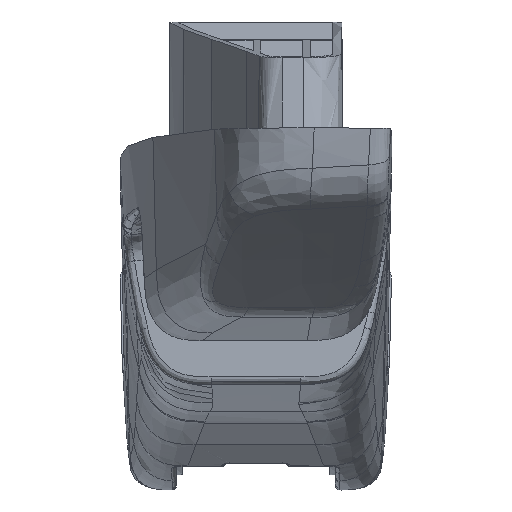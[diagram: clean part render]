
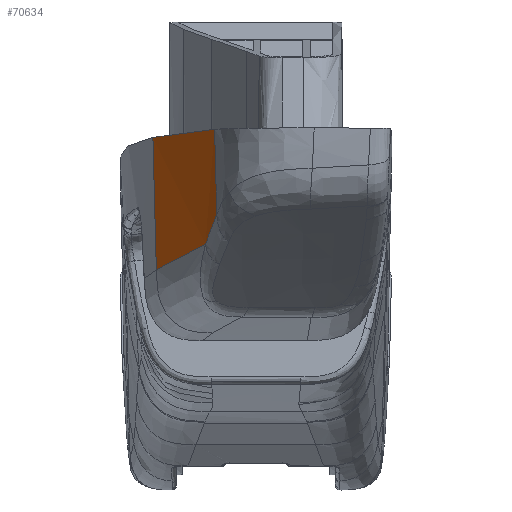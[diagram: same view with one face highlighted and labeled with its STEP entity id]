
A CAD part, left-side view. The second image highlights one B-rep face of the part: STEP entity #70634.
In plain terms, the highlighted free-form (B-spline) face has degree [5, 1] with [6, 2] control points.
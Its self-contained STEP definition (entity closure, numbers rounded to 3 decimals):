
#58785=CARTESIAN_POINT('Vertex',(-268.059,-419.796,616.49)) ;
#58789=CARTESIAN_POINT('Control Point',(-268.059,-419.796,616.49)) ;
#58790=CARTESIAN_POINT('Control Point',(-273.866,-420.793,616.706)) ;
#58791=CARTESIAN_POINT('Control Point',(-279.635,-421.849,616.909)) ;
#58792=CARTESIAN_POINT('Control Point',(-285.385,-422.968,617.099)) ;
#58793=CARTESIAN_POINT('Control Point',(-296.827,-425.331,617.452)) ;
#58794=CARTESIAN_POINT('Control Point',(-308.131,-427.936,617.752)) ;
#58795=CARTESIAN_POINT('Control Point',(-313.739,-429.297,617.889)) ;
#58796=CARTESIAN_POINT('Control Point',(-319.313,-430.719,618.012)) ;
#58797=CARTESIAN_POINT('Control Point',(-324.859,-432.205,618.123)) ;
#58798=CARTESIAN_POINT('Vertex',(-324.859,-432.205,618.123)) ;
#61149=CARTESIAN_POINT('Vertex',(-267.941,-420.482,589.906)) ;
#61153=CARTESIAN_POINT('Control Point',(-267.941,-420.482,589.906)) ;
#61154=CARTESIAN_POINT('Control Point',(-267.965,-420.345,595.223)) ;
#61155=CARTESIAN_POINT('Control Point',(-267.988,-420.208,600.54)) ;
#61156=CARTESIAN_POINT('Control Point',(-268.012,-420.071,605.857)) ;
#61157=CARTESIAN_POINT('Control Point',(-268.036,-419.933,611.174)) ;
#61158=CARTESIAN_POINT('Control Point',(-268.059,-419.796,616.491)) ;
#70593=CARTESIAN_POINT('Control Point',(-324.709,-432.763,596.05)) ;
#70594=CARTESIAN_POINT('Control Point',(-324.897,-432.066,623.624)) ;
#70595=CARTESIAN_POINT('Control Point',(-313.447,-429.775,594.789)) ;
#70596=CARTESIAN_POINT('Control Point',(-313.621,-429.074,622.363)) ;
#70597=CARTESIAN_POINT('Control Point',(-302.242,-427.088,593.559)) ;
#70598=CARTESIAN_POINT('Control Point',(-302.402,-426.384,621.133)) ;
#70599=CARTESIAN_POINT('Control Point',(-290.762,-424.612,592.318)) ;
#70600=CARTESIAN_POINT('Control Point',(-290.91,-423.906,619.892)) ;
#70601=CARTESIAN_POINT('Control Point',(-279.423,-422.432,591.111)) ;
#70602=CARTESIAN_POINT('Control Point',(-279.558,-421.723,618.684)) ;
#70603=CARTESIAN_POINT('Control Point',(-267.941,-420.482,589.906)) ;
#70604=CARTESIAN_POINT('Control Point',(-268.064,-419.771,617.48)) ;
#70606=CARTESIAN_POINT('Control Point',(-324.743,-432.637,601.041)) ;
#70607=CARTESIAN_POINT('Control Point',(-324.859,-432.205,618.123)) ;
#70608=CARTESIAN_POINT('Vertex',(-324.743,-432.637,601.041)) ;
#70612=CARTESIAN_POINT('Control Point',(-315.373,-430.364,595.011)) ;
#70613=CARTESIAN_POINT('Control Point',(-305.975,-428.029,593.972)) ;
#70614=CARTESIAN_POINT('Control Point',(-296.54,-425.88,592.944)) ;
#70615=CARTESIAN_POINT('Control Point',(-286.997,-423.895,591.918)) ;
#70616=CARTESIAN_POINT('Control Point',(-277.519,-422.109,590.911)) ;
#70617=CARTESIAN_POINT('Control Point',(-267.941,-420.482,589.906)) ;
#70618=CARTESIAN_POINT('Vertex',(-315.373,-430.364,595.011)) ;
#70622=CARTESIAN_POINT('Control Point',(-324.743,-432.637,601.041)) ;
#70623=CARTESIAN_POINT('Control Point',(-321.62,-431.853,599.031)) ;
#70624=CARTESIAN_POINT('Control Point',(-318.499,-431.096,597.023)) ;
#70625=CARTESIAN_POINT('Control Point',(-315.373,-430.364,595.011)) ;
#70628=ORIENTED_EDGE('',*,*,#70610,.T.) ;
#70629=ORIENTED_EDGE('',*,*,#58800,.F.) ;
#70630=ORIENTED_EDGE('',*,*,#61159,.F.) ;
#70631=ORIENTED_EDGE('',*,*,#70620,.F.) ;
#70632=ORIENTED_EDGE('',*,*,#70626,.F.) ;
#70634=ADVANCED_FACE('\X2\51E04F554F53\X0\.16',(#70633),#70592,.F.) ;
#58788=B_SPLINE_CURVE_WITH_KNOTS('',5,(#58789,#58790,#58791,#58792,#58793,#58794,#58795,#58796,#58797),.UNSPECIFIED.,.F.,.U.,(6,3,6),(0.,41.638,83.275),.UNSPECIFIED.) ;
#61152=B_SPLINE_CURVE_WITH_KNOTS('',5,(#61153,#61154,#61155,#61156,#61157,#61158),.UNSPECIFIED.,.F.,.U.,(6,6),(2.889,23.24),.UNSPECIFIED.) ;
#70605=B_SPLINE_CURVE_WITH_KNOTS('',1,(#70606,#70607),.UNSPECIFIED.,.F.,.U.,(2,2),(4.992,22.08),.UNSPECIFIED.) ;
#70611=B_SPLINE_CURVE_WITH_KNOTS('',5,(#70612,#70613,#70614,#70615,#70616,#70617),.UNSPECIFIED.,.F.,.U.,(6,6),(9.698,58.469),.UNSPECIFIED.) ;
#70621=B_SPLINE_CURVE_WITH_KNOTS('',3,(#70622,#70623,#70624,#70625),.UNSPECIFIED.,.F.,.U.,(4,4),(0.,15.757),.UNSPECIFIED.) ;
#70592=B_SPLINE_SURFACE_WITH_KNOTS('',5,1,((#70593,#70594),(#70595,#70596),(#70597,#70598),(#70599,#70600),(#70601,#70602),(#70603,#70604)),.UNSPECIFIED.,.F.,.F.,.U.,(6,6),(2,2),(0.,58.469),(0.,27.583),.UNSPECIFIED.) ;
#58800=EDGE_CURVE('',#58786,#58799,#58788,.T.) ;
#61159=EDGE_CURVE('',#61150,#58786,#61152,.T.) ;
#70610=EDGE_CURVE('',#70609,#58799,#70605,.T.) ;
#70620=EDGE_CURVE('',#70619,#61150,#70611,.T.) ;
#70626=EDGE_CURVE('',#70609,#70619,#70621,.T.) ;
#70627=EDGE_LOOP('',(#70628,#70629,#70630,#70631,#70632)) ;
#70633=FACE_OUTER_BOUND('',#70627,.T.) ;
#58786=VERTEX_POINT('',#58785) ;
#58799=VERTEX_POINT('',#58798) ;
#61150=VERTEX_POINT('',#61149) ;
#70609=VERTEX_POINT('',#70608) ;
#70619=VERTEX_POINT('',#70618) ;
